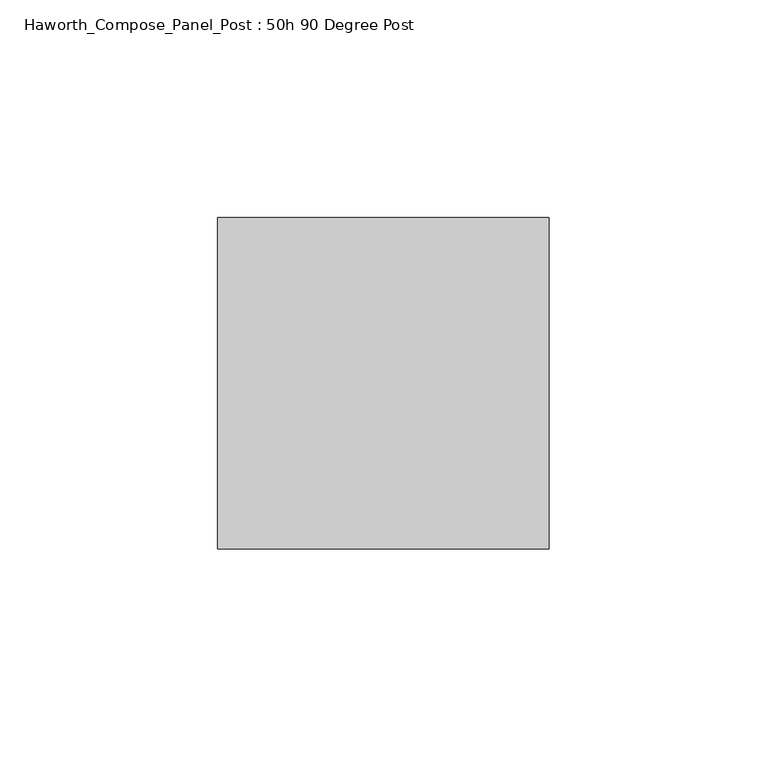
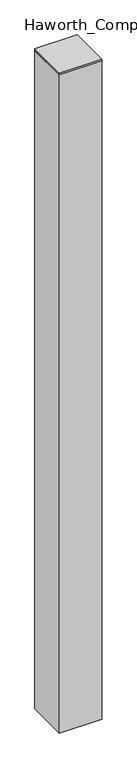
"""IFC4 building model written with IfcOpenShell, lengths in millimetres: furniture geometry, Haworth_Compose_Panel_Post : 50h 90 Degree Post."""

from ifc_helpers import new_model, si_unit, frame, origin, place, context, project, spatial, polyline, outline, extrude, source, transform, mapped, element, save


def haworth_compose_panel_post_50h_90_degree_post_67cade53(model_context):
    return source(origin(), model_context, "Body", "SweptSolid", [
        extrude(outline(polyline([(0.0, -38.1), (0.0, 38.1), (76.2, 38.1), (76.2, -38.1), (0.0, -38.1)])), frame((0.0, 0.0, 1263.65), z_axis=(0.0, 0.0, 1.0), x_axis=(1.0, 0.0, 0.0)), (0.0, 0.0, 1.0), 3.175),
        extrude(outline(polyline([(76.2, -38.1), (0.0, -38.1), (0.0, 38.1), (76.2, 38.1), (76.2, -38.1)])), frame((0.0, 0.0, 12.7), z_axis=(0.0, 0.0, 1.0), x_axis=(1.0, 0.0, 0.0)), (0.0, 0.0, 1.0), 1250.95),
    ])


if __name__ == "__main__":
    model = new_model("IFC4")
    model_context = context("Model", 3, world=origin())
    ifc_project = project(units=[si_unit("LENGTHUNIT", "METRE", prefix="MILLI")], contexts=[model_context])
    site = spatial("IfcSite", under=ifc_project)
    building = spatial("IfcBuilding", under=site)
    placement = place(None, origin())
    haworth_compose_panel_post_50h_90_degree_post_shape = haworth_compose_panel_post_50h_90_degree_post_67cade53(model_context)
    element("IfcFurniture", 1, ObjectType="Haworth_Compose_Panel_Post : 50h 90 Degree Post", at=placement, inside=building, context=model_context, shape_type="MappedRepresentation", body=[
        mapped(haworth_compose_panel_post_50h_90_degree_post_shape, transform((0.0, 0.0, 0.0), x_axis=(1.0, 0.0, 0.0), y_axis=(0.0, 1.0, 0.0), z_axis=(0.0, 0.0, 1.0))),
    ])
    save(model, "model.ifc")
